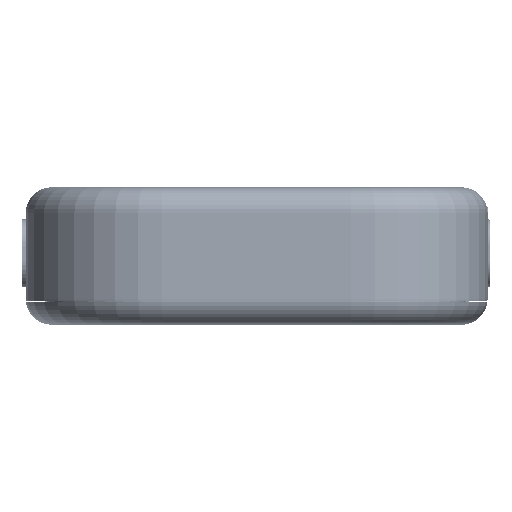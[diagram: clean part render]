
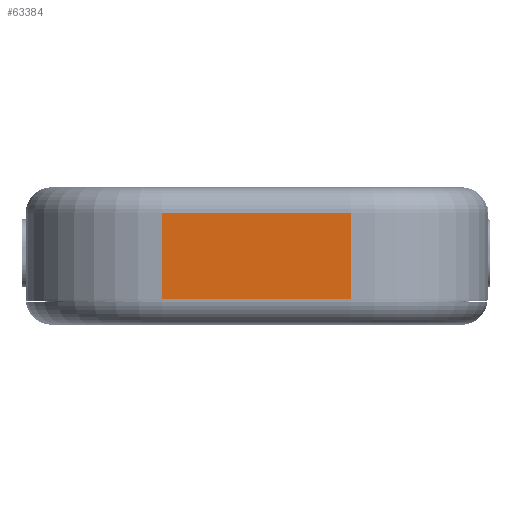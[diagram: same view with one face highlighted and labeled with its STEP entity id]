
A CAD part, front view. The second image highlights one B-rep face of the part: STEP entity #63384.
In plain terms, the highlighted planar face has unit normal (0, -1, 0).
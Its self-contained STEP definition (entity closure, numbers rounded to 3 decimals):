
#62496 = CYLINDRICAL_SURFACE('',#62497,26.);
#62497 = AXIS2_PLACEMENT_3D('',#62498,#62499,#62500);
#62498 = CARTESIAN_POINT('',(-18.,-42.,-13.6));
#62499 = DIRECTION('',(0.,0.,1.));
#62500 = DIRECTION('',(-1.,-0.,0.));
#62659 = VERTEX_POINT('',#62660);
#62660 = CARTESIAN_POINT('',(-18.,-68.,-8.6));
#62687 = EDGE_CURVE('',#62659,#62688,#62690,.T.);
#62688 = VERTEX_POINT('',#62689);
#62689 = CARTESIAN_POINT('',(-18.,-68.,7.6));
#62690 = SURFACE_CURVE('',#62691,(#62695,#62702),.PCURVE_S1.);
#62691 = LINE('',#62692,#62693);
#62692 = CARTESIAN_POINT('',(-18.,-68.,-13.6));
#62693 = VECTOR('',#62694,1.);
#62694 = DIRECTION('',(0.,0.,1.));
#62695 = PCURVE('',#62496,#62696);
#62696 = DEFINITIONAL_REPRESENTATION('',(#62697),#62701);
#62697 = LINE('',#62698,#62699);
#62698 = CARTESIAN_POINT('',(1.571,0.));
#62699 = VECTOR('',#62700,1.);
#62700 = DIRECTION('',(0.,1.));
#62701 = ( GEOMETRIC_REPRESENTATION_CONTEXT(2) 
PARAMETRIC_REPRESENTATION_CONTEXT() REPRESENTATION_CONTEXT('2D SPACE',''
  ) );
#62702 = PCURVE('',#62703,#62708);
#62703 = PLANE('',#62704);
#62704 = AXIS2_PLACEMENT_3D('',#62705,#62706,#62707);
#62705 = CARTESIAN_POINT('',(-44.,-68.,-13.6));
#62706 = DIRECTION('',(0.,1.,0.));
#62707 = DIRECTION('',(0.,0.,1.));
#62708 = DEFINITIONAL_REPRESENTATION('',(#62709),#62713);
#62709 = LINE('',#62710,#62711);
#62710 = CARTESIAN_POINT('',(0.,26.));
#62711 = VECTOR('',#62712,1.);
#62712 = DIRECTION('',(1.,0.));
#62713 = ( GEOMETRIC_REPRESENTATION_CONTEXT(2) 
PARAMETRIC_REPRESENTATION_CONTEXT() REPRESENTATION_CONTEXT('2D SPACE',''
  ) );
#63285 = CYLINDRICAL_SURFACE('',#63286,5.);
#63286 = AXIS2_PLACEMENT_3D('',#63287,#63288,#63289);
#63287 = CARTESIAN_POINT('',(18.,-63.,-8.6));
#63288 = DIRECTION('',(-1.,-0.,-0.));
#63289 = DIRECTION('',(0.,-1.,0.));
#63345 = CYLINDRICAL_SURFACE('',#63346,5.);
#63346 = AXIS2_PLACEMENT_3D('',#63347,#63348,#63349);
#63347 = CARTESIAN_POINT('',(18.,-63.,7.6));
#63348 = DIRECTION('',(-1.,-0.,-0.));
#63349 = DIRECTION('',(0.,-1.,0.));
#63384 = ADVANCED_FACE('',(#63385),#62703,.F.);
#63385 = FACE_BOUND('',#63386,.F.);
#63386 = EDGE_LOOP('',(#63387,#63388,#63411,#63439));
#63387 = ORIENTED_EDGE('',*,*,#62687,.T.);
#63388 = ORIENTED_EDGE('',*,*,#63389,.F.);
#63389 = EDGE_CURVE('',#63390,#62688,#63392,.T.);
#63390 = VERTEX_POINT('',#63391);
#63391 = CARTESIAN_POINT('',(18.,-68.,7.6));
#63392 = SURFACE_CURVE('',#63393,(#63397,#63404),.PCURVE_S1.);
#63393 = LINE('',#63394,#63395);
#63394 = CARTESIAN_POINT('',(18.,-68.,7.6));
#63395 = VECTOR('',#63396,1.);
#63396 = DIRECTION('',(-1.,-0.,-0.));
#63397 = PCURVE('',#62703,#63398);
#63398 = DEFINITIONAL_REPRESENTATION('',(#63399),#63403);
#63399 = LINE('',#63400,#63401);
#63400 = CARTESIAN_POINT('',(21.2,62.));
#63401 = VECTOR('',#63402,1.);
#63402 = DIRECTION('',(0.,-1.));
#63403 = ( GEOMETRIC_REPRESENTATION_CONTEXT(2) 
PARAMETRIC_REPRESENTATION_CONTEXT() REPRESENTATION_CONTEXT('2D SPACE',''
  ) );
#63404 = PCURVE('',#63345,#63405);
#63405 = DEFINITIONAL_REPRESENTATION('',(#63406),#63410);
#63406 = LINE('',#63407,#63408);
#63407 = CARTESIAN_POINT('',(0.,0.));
#63408 = VECTOR('',#63409,1.);
#63409 = DIRECTION('',(0.,1.));
#63410 = ( GEOMETRIC_REPRESENTATION_CONTEXT(2) 
PARAMETRIC_REPRESENTATION_CONTEXT() REPRESENTATION_CONTEXT('2D SPACE',''
  ) );
#63411 = ORIENTED_EDGE('',*,*,#63412,.F.);
#63412 = EDGE_CURVE('',#63413,#63390,#63415,.T.);
#63413 = VERTEX_POINT('',#63414);
#63414 = CARTESIAN_POINT('',(18.,-68.,-8.6));
#63415 = SURFACE_CURVE('',#63416,(#63420,#63427),.PCURVE_S1.);
#63416 = LINE('',#63417,#63418);
#63417 = CARTESIAN_POINT('',(18.,-68.,-13.6));
#63418 = VECTOR('',#63419,1.);
#63419 = DIRECTION('',(0.,0.,1.));
#63420 = PCURVE('',#62703,#63421);
#63421 = DEFINITIONAL_REPRESENTATION('',(#63422),#63426);
#63422 = LINE('',#63423,#63424);
#63423 = CARTESIAN_POINT('',(0.,62.));
#63424 = VECTOR('',#63425,1.);
#63425 = DIRECTION('',(1.,0.));
#63426 = ( GEOMETRIC_REPRESENTATION_CONTEXT(2) 
PARAMETRIC_REPRESENTATION_CONTEXT() REPRESENTATION_CONTEXT('2D SPACE',''
  ) );
#63427 = PCURVE('',#63428,#63433);
#63428 = CYLINDRICAL_SURFACE('',#63429,26.);
#63429 = AXIS2_PLACEMENT_3D('',#63430,#63431,#63432);
#63430 = CARTESIAN_POINT('',(18.,-42.,-13.6));
#63431 = DIRECTION('',(0.,0.,1.));
#63432 = DIRECTION('',(1.,0.,-0.));
#63433 = DEFINITIONAL_REPRESENTATION('',(#63434),#63438);
#63434 = LINE('',#63435,#63436);
#63435 = CARTESIAN_POINT('',(-1.571,0.));
#63436 = VECTOR('',#63437,1.);
#63437 = DIRECTION('',(-0.,1.));
#63438 = ( GEOMETRIC_REPRESENTATION_CONTEXT(2) 
PARAMETRIC_REPRESENTATION_CONTEXT() REPRESENTATION_CONTEXT('2D SPACE',''
  ) );
#63439 = ORIENTED_EDGE('',*,*,#63440,.T.);
#63440 = EDGE_CURVE('',#63413,#62659,#63441,.T.);
#63441 = SURFACE_CURVE('',#63442,(#63446,#63453),.PCURVE_S1.);
#63442 = LINE('',#63443,#63444);
#63443 = CARTESIAN_POINT('',(18.,-68.,-8.6));
#63444 = VECTOR('',#63445,1.);
#63445 = DIRECTION('',(-1.,-0.,-0.));
#63446 = PCURVE('',#62703,#63447);
#63447 = DEFINITIONAL_REPRESENTATION('',(#63448),#63452);
#63448 = LINE('',#63449,#63450);
#63449 = CARTESIAN_POINT('',(5.,62.));
#63450 = VECTOR('',#63451,1.);
#63451 = DIRECTION('',(0.,-1.));
#63452 = ( GEOMETRIC_REPRESENTATION_CONTEXT(2) 
PARAMETRIC_REPRESENTATION_CONTEXT() REPRESENTATION_CONTEXT('2D SPACE',''
  ) );
#63453 = PCURVE('',#63285,#63454);
#63454 = DEFINITIONAL_REPRESENTATION('',(#63455),#63459);
#63455 = LINE('',#63456,#63457);
#63456 = CARTESIAN_POINT('',(-0.,0.));
#63457 = VECTOR('',#63458,1.);
#63458 = DIRECTION('',(-0.,1.));
#63459 = ( GEOMETRIC_REPRESENTATION_CONTEXT(2) 
PARAMETRIC_REPRESENTATION_CONTEXT() REPRESENTATION_CONTEXT('2D SPACE',''
  ) );
